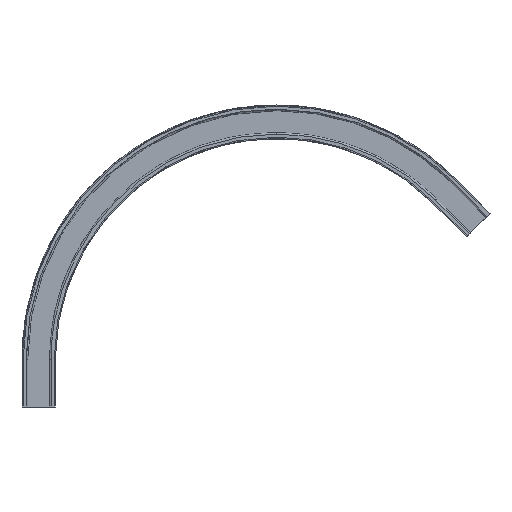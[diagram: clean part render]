
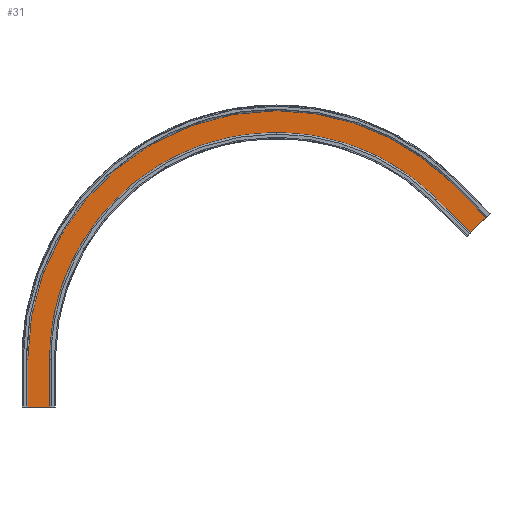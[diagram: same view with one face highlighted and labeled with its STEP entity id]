
A CAD part, front view. The second image highlights one B-rep face of the part: STEP entity #31.
In plain terms, the highlighted planar face has unit normal (0, -1, 0).
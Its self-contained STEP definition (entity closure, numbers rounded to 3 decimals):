
#31 = ADVANCED_FACE ( 'NONE', ( #3052 ), #11498, .F. ) ;
#376 = CARTESIAN_POINT ( 'NONE',  ( -474.889, 246.202, 155.327 ) ) ;
#387 = CARTESIAN_POINT ( 'NONE',  ( 54.611, 246.202, 684.827 ) ) ;
#473 = CARTESIAN_POINT ( 'NONE',  ( -415.889, 246.202, 55.327 ) ) ;
#497 = CARTESIAN_POINT ( 'NONE',  ( 54.611, 246.202, 625.827 ) ) ;
#501 = CARTESIAN_POINT ( 'NONE',  ( -415.889, 246.202, 155.327 ) ) ;
#524 = EDGE_CURVE ( 'NONE', #6185, #5973, #3004, .T. ) ;
#525 = EDGE_CURVE ( 'NONE', #6020, #6042, #3001, .T. ) ;
#526 = EDGE_CURVE ( 'NONE', #5947, #6287, #5576, .T. ) ;
#528 = EDGE_CURVE ( 'NONE', #6290, #6185, #2999, .T. ) ;
#531 = EDGE_CURVE ( 'NONE', #6042, #5947, #2994, .T. ) ;
#536 = EDGE_CURVE ( 'NONE', #5996, #6020, #2986, .T. ) ;
#538 = EDGE_CURVE ( 'NONE', #6212, #5996, #5555, .T. ) ;
#545 = EDGE_CURVE ( 'NONE', #5973, #6207, #3167, .T. ) ;
#810 = EDGE_CURVE ( 'NONE', #6207, #6212, #5568, .T. ) ;
#2984 = VECTOR ( 'NONE', #11361, 1000. ) ;
#2986 = LINE ( 'NONE', #11362, #2984 ) ;
#2992 = VECTOR ( 'NONE', #11374, 1000. ) ;
#2994 = LINE ( 'NONE', #11375, #2992 ) ;
#2997 = VECTOR ( 'NONE', #11383, 1000. ) ;
#2999 = LINE ( 'NONE', #11384, #2997 ) ;
#3000 = VECTOR ( 'NONE', #11400, 1000. ) ;
#3001 = LINE ( 'NONE', #11401, #3000 ) ;
#3002 = VECTOR ( 'NONE', #11402, 1000. ) ;
#3004 = LINE ( 'NONE', #11403, #3002 ) ;
#3052 = FACE_OUTER_BOUND ( 'NONE', #3301, .T. ) ;
#3167 = LINE ( 'NONE', #11327, #3342 ) ;
#3301 = EDGE_LOOP ( 'NONE', ( #10412, #10413, #10414, #10415, #10416, #10417, #10418, #10419, #10420, #10421 ) ) ;
#3342 = VECTOR ( 'NONE', #11325, 1000. ) ;
#5555 =( BOUNDED_CURVE ( )  B_SPLINE_CURVE ( 3, ( #11352, #11351, #11350, #11349 ),
 .UNSPECIFIED., .F., .T. ) 
 B_SPLINE_CURVE_WITH_KNOTS ( ( 4, 4 ),
 ( 0., 1. ),
 .UNSPECIFIED. ) 
 CURVE ( )  GEOMETRIC_REPRESENTATION_ITEM ( )  RATIONAL_B_SPLINE_CURVE ( ( 1., 0.949, 0.949, 1. ) ) 
 REPRESENTATION_ITEM ( '' )  );
#5568 =( BOUNDED_CURVE ( )  B_SPLINE_CURVE ( 3, ( #8138, #8137, #8136, #8135 ),
 .UNSPECIFIED., .F., .F. ) 
 B_SPLINE_CURVE_WITH_KNOTS ( ( 4, 4 ),
 ( 0., 1. ),
 .UNSPECIFIED. ) 
 CURVE ( )  GEOMETRIC_REPRESENTATION_ITEM ( )  RATIONAL_B_SPLINE_CURVE ( ( 1., 0.805, 0.805, 1. ) ) 
 REPRESENTATION_ITEM ( '' )  );
#5576 =( BOUNDED_CURVE ( )  B_SPLINE_CURVE ( 3, ( #11395, #11393, #11392, #11391 ),
 .UNSPECIFIED., .F., .F. ) 
 B_SPLINE_CURVE_WITH_KNOTS ( ( 4, 4 ),
 ( 0., 1. ),
 .UNSPECIFIED. ) 
 CURVE ( )  GEOMETRIC_REPRESENTATION_ITEM ( )  RATIONAL_B_SPLINE_CURVE ( ( 1., 0.949, 0.949, 1. ) ) 
 REPRESENTATION_ITEM ( '' )  );
#5593 =( BOUNDED_CURVE ( )  B_SPLINE_CURVE ( 3, ( #8650, #8649, #8648, #8647 ),
 .UNSPECIFIED., .F., .F. ) 
 B_SPLINE_CURVE_WITH_KNOTS ( ( 4, 4 ),
 ( 0., 1. ),
 .UNSPECIFIED. ) 
 CURVE ( )  GEOMETRIC_REPRESENTATION_ITEM ( )  RATIONAL_B_SPLINE_CURVE ( ( 1., 0.805, 0.805, 1. ) ) 
 REPRESENTATION_ITEM ( '' )  );
#5604 = EDGE_CURVE ( 'NONE', #6287, #6290, #5593, .T. ) ;
#5644 = AXIS2_PLACEMENT_3D ( 'NONE', #11497, #11496, #11495 ) ;
#5947 = VERTEX_POINT ( 'NONE', #8480 ) ;
#5973 = VERTEX_POINT ( 'NONE', #8447 ) ;
#5996 = VERTEX_POINT ( 'NONE', #8418 ) ;
#6020 = VERTEX_POINT ( 'NONE', #8388 ) ;
#6042 = VERTEX_POINT ( 'NONE', #8366 ) ;
#6185 = VERTEX_POINT ( 'NONE', #473 ) ;
#6207 = VERTEX_POINT ( 'NONE', #376 ) ;
#6212 = VERTEX_POINT ( 'NONE', #387 ) ;
#6287 = VERTEX_POINT ( 'NONE', #497 ) ;
#6290 = VERTEX_POINT ( 'NONE', #501 ) ;
#8135 = CARTESIAN_POINT ( 'NONE',  ( 54.611, 246.202, 684.827 ) ) ;
#8136 = CARTESIAN_POINT ( 'NONE',  ( -255.563, 246.202, 684.827 ) ) ;
#8137 = CARTESIAN_POINT ( 'NONE',  ( -474.889, 246.202, 465.501 ) ) ;
#8138 = CARTESIAN_POINT ( 'NONE',  ( -474.889, 246.202, 155.327 ) ) ;
#8366 = CARTESIAN_POINT ( 'NONE',  ( 458.015, 246.202, 417.31 ) ) ;
#8388 = CARTESIAN_POINT ( 'NONE',  ( 499.734, 246.202, 459.03 ) ) ;
#8418 = CARTESIAN_POINT ( 'NONE',  ( 429.024, 246.202, 529.74 ) ) ;
#8447 = CARTESIAN_POINT ( 'NONE',  ( -474.889, 246.202, 55.327 ) ) ;
#8480 = CARTESIAN_POINT ( 'NONE',  ( 387.304, 246.202, 488.021 ) ) ;
#8647 = CARTESIAN_POINT ( 'NONE',  ( -415.889, 246.202, 155.327 ) ) ;
#8648 = CARTESIAN_POINT ( 'NONE',  ( -415.889, 246.202, 430.94 ) ) ;
#8649 = CARTESIAN_POINT ( 'NONE',  ( -221.002, 246.202, 625.827 ) ) ;
#8650 = CARTESIAN_POINT ( 'NONE',  ( 54.611, 246.202, 625.827 ) ) ;
#10412 = ORIENTED_EDGE ( 'NONE', *, *, #528, .F. ) ;
#10413 = ORIENTED_EDGE ( 'NONE', *, *, #5604, .F. ) ;
#10414 = ORIENTED_EDGE ( 'NONE', *, *, #526, .F. ) ;
#10415 = ORIENTED_EDGE ( 'NONE', *, *, #531, .F. ) ;
#10416 = ORIENTED_EDGE ( 'NONE', *, *, #525, .F. ) ;
#10417 = ORIENTED_EDGE ( 'NONE', *, *, #536, .F. ) ;
#10418 = ORIENTED_EDGE ( 'NONE', *, *, #538, .F. ) ;
#10419 = ORIENTED_EDGE ( 'NONE', *, *, #810, .F. ) ;
#10420 = ORIENTED_EDGE ( 'NONE', *, *, #545, .F. ) ;
#10421 = ORIENTED_EDGE ( 'NONE', *, *, #524, .F. ) ;
#11325 = DIRECTION ( 'NONE',  ( 0., 0., 1. ) ) ;
#11327 = CARTESIAN_POINT ( 'NONE',  ( -474.889, 246.202, 155.327 ) ) ;
#11349 = CARTESIAN_POINT ( 'NONE',  ( 429.024, 246.202, 529.74 ) ) ;
#11350 = CARTESIAN_POINT ( 'NONE',  ( 328.396, 246.202, 630.368 ) ) ;
#11351 = CARTESIAN_POINT ( 'NONE',  ( 196.92, 246.202, 684.827 ) ) ;
#11352 = CARTESIAN_POINT ( 'NONE',  ( 54.611, 246.202, 684.827 ) ) ;
#11361 = DIRECTION ( 'NONE',  ( 0.707, 0., -0.707 ) ) ;
#11362 = CARTESIAN_POINT ( 'NONE',  ( 429.024, 246.202, 529.74 ) ) ;
#11374 = DIRECTION ( 'NONE',  ( -0.707, 0., 0.707 ) ) ;
#11375 = CARTESIAN_POINT ( 'NONE',  ( 458.015, 246.202, 417.31 ) ) ;
#11383 = DIRECTION ( 'NONE',  ( 0., 0., -1. ) ) ;
#11384 = CARTESIAN_POINT ( 'NONE',  ( -415.889, 246.202, 155.327 ) ) ;
#11391 = CARTESIAN_POINT ( 'NONE',  ( 54.611, 246.202, 625.827 ) ) ;
#11392 = CARTESIAN_POINT ( 'NONE',  ( 181.063, 246.202, 625.827 ) ) ;
#11393 = CARTESIAN_POINT ( 'NONE',  ( 297.889, 246.202, 577.436 ) ) ;
#11395 = CARTESIAN_POINT ( 'NONE',  ( 387.304, 246.202, 488.021 ) ) ;
#11400 = DIRECTION ( 'NONE',  ( -0.707, 0., -0.707 ) ) ;
#11401 = CARTESIAN_POINT ( 'NONE',  ( 499.734, 246.202, 459.03 ) ) ;
#11402 = DIRECTION ( 'NONE',  ( -1., 0., 0. ) ) ;
#11403 = CARTESIAN_POINT ( 'NONE',  ( -474.889, 246.202, 55.327 ) ) ;
#11495 = DIRECTION ( 'NONE',  ( -1., 0., 0. ) ) ;
#11496 = DIRECTION ( 'NONE',  ( 0., 1., 0. ) ) ;
#11497 = CARTESIAN_POINT ( 'NONE',  ( -474.889, 246.202, 155.327 ) ) ;
#11498 = PLANE ( 'NONE',  #5644 ) ;
